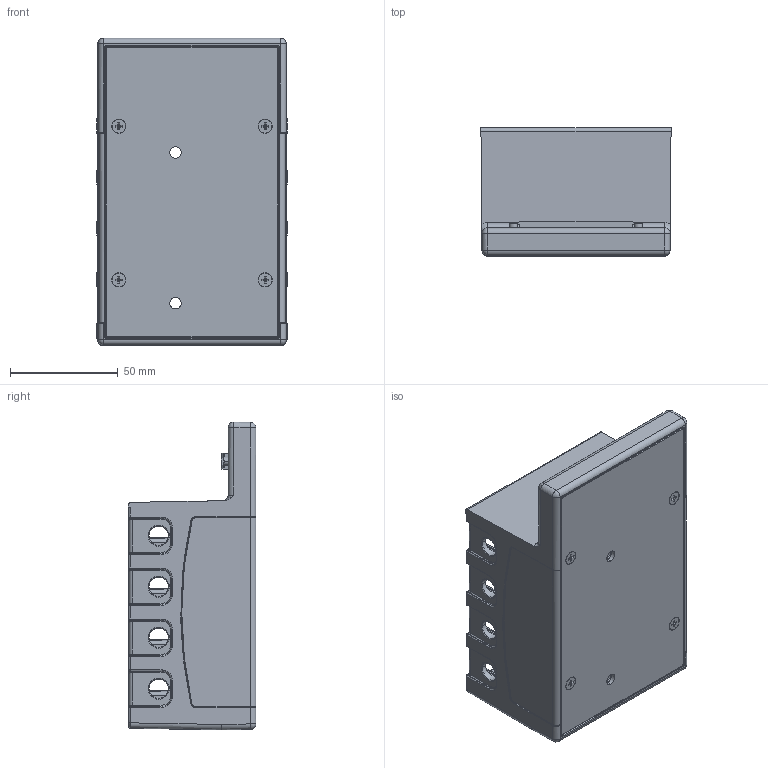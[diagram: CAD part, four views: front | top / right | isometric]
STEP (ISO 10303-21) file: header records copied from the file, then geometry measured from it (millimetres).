
FILE_DESCRIPTION((''),'2;1');
FILE_NAME('CRIO-4SLOT-EXPAN-CHAS','2007-01-26T',('chrisj'),(''),'PRO/ENGINEER BY PARAMETRIC TECHNOLOGY CORPORATION, 2006080','PRO/ENGINEER BY PARAMETRIC TECHNOLOGY CORPORATION, 2006080','');
FILE_SCHEMA(('AUTOMOTIVE_DESIGN_CC2 { 1 2 10303 214 -1 1 5 2 }'));
Products named in the file (1): CRIO-4SLOT-EXPAN-CHAS
Bounding box: 88.12 x 59.2 x 142.65 mm (x, y, z)
Volume: 154590.2 mm3; surface area: 102132 mm2
Topology: 2 solids, 2 shells, 2402 faces, 5526 edges, 3294 vertices
Faces by surface type: cylinder 900, plane 820, bspline 324, torus 146, cone 118, sphere 94
Entity records: 90184 total; most frequent: CARTESIAN_POINT 37001, DIRECTION 11054, ORIENTED_EDGE 11020, EDGE_CURVE 5510, AXIS2_PLACEMENT_3D 4189, VERTEX_POINT 3370, VECTOR 2676, LINE 2676
